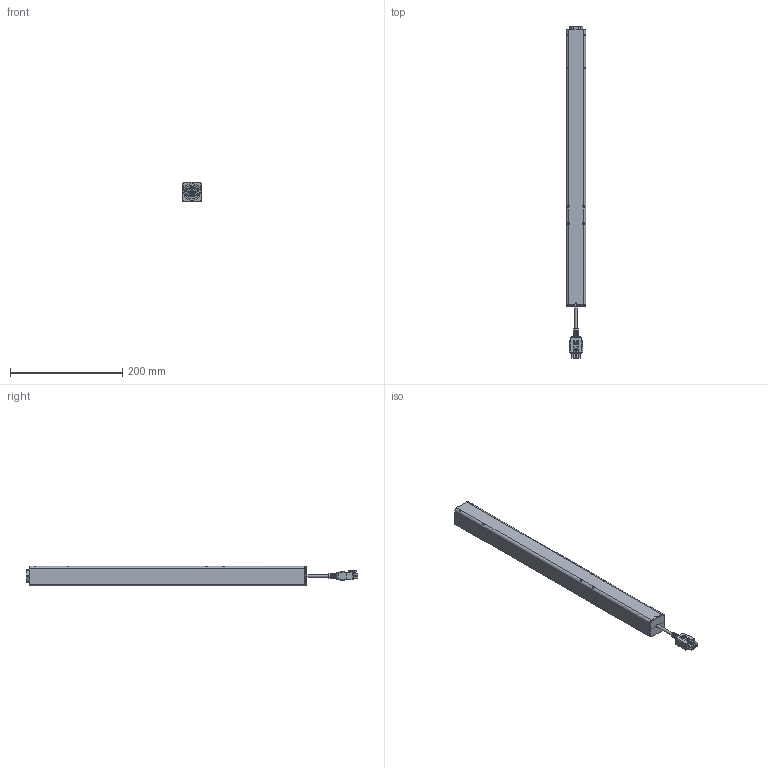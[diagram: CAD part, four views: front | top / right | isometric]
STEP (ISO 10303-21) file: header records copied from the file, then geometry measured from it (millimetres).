
FILE_DESCRIPTION(/* description */ ('Unknown'),/* implementation_level */ '2;1');
FILE_NAME(/* name */ '903.02002_00-Eingefahren',/* time_stamp */ '2022-02-03T12:04:36+01:00',/* author */ ('Unknown'),/* organization */ ('Unknown'),/* preprocessor_version */ 'ST-DEVELOPER v18.1',/* originating_system */ 'Solid Edge',/* authorisation */ 'Unknown');
FILE_SCHEMA (('AUTOMOTIVE_DESIGN {1 0 10303 214 3 1 1}'));
Products named in the file (9): 903.02002; 142.00014; 119.00449; 122.00005; 123.00109; 125.00051; 128.00025; Kabel Molex_kurz; 142.00275
Assembly tree (13 placements, depth 2):
  903.02002
    142.00014  x4
    119.00449
    122.00005
    123.00109
    125.00051
    128.00025  x2
    Kabel Molex_kurz
    142.00275  x2
Bounding box: 35 x 591.5 x 35 mm (x, y, z)
Volume: 290959.9 mm3; surface area: 183342.5 mm2
Topology: 13 solids, 13 shells, 2720 faces, 7570 edges, 4949 vertices
Faces by surface type: plane 1815, cylinder 650, bspline 98, torus 88, cone 53, sphere 16
Full cylindrical faces by diameter (mm): 1.25 x2, 2.459 x2, 2.6 x10, 3 x2, 4 x12, 4.134 x6, 5 x1, 6.647 x1, 8.376 x2, 17.3 x1, 19 x1, 20.8 x3, 21 x2, 25 x2, 30 x2
Entity records: 58085 total; most frequent: CARTESIAN_POINT 12725, ORIENTED_EDGE 8808, DIRECTION 8271, EDGE_CURVE 4404, LINE 3143, VECTOR 3143, VERTEX_POINT 2917, AXIS2_PLACEMENT_3D 2564
